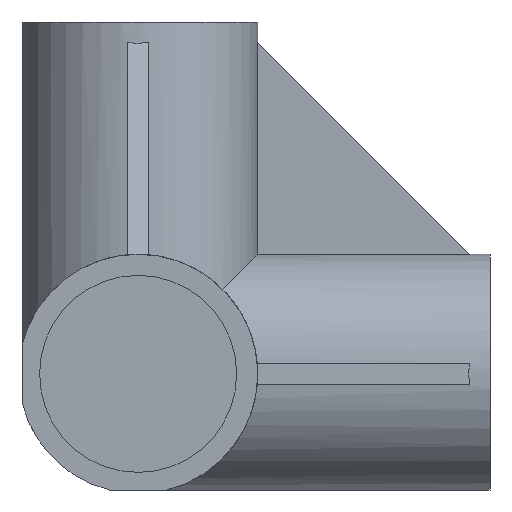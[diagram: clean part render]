
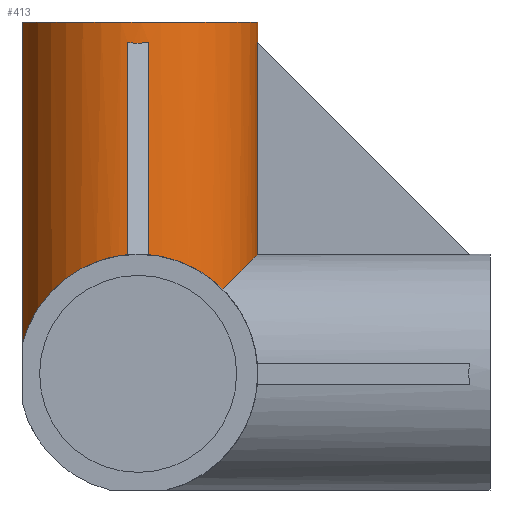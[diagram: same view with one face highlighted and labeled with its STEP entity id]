
A CAD part, front view. The second image highlights one B-rep face of the part: STEP entity #413.
In plain terms, the highlighted cylindrical face has radius 17 mm (diameter 34 mm), a partial arc.
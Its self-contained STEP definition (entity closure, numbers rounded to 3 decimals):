
#2 = CARTESIAN_POINT ( 'NONE',  ( 1.5, -16.934, 47.066 ) ) ;
#4 =( BOUNDED_CURVE ( )  B_SPLINE_CURVE ( 3, ( #629, #196, #25, #583 ),
 .UNSPECIFIED., .F., .T. ) 
 B_SPLINE_CURVE_WITH_KNOTS ( ( 4, 4 ),
 ( 1.814, 3.053 ),
 .UNSPECIFIED. ) 
 CURVE ( )  GEOMETRIC_REPRESENTATION_ITEM ( )  RATIONAL_B_SPLINE_CURVE ( ( 1., 0.876, 0.876, 1. ) ) 
 REPRESENTATION_ITEM ( '' )  );
#5 = VERTEX_POINT ( 'NONE', #495 ) ;
#7 = CARTESIAN_POINT ( 'NONE',  ( 5.516, -16.578, 16.578 ) ) ;
#15 = DIRECTION ( 'NONE',  ( 1., 0., 0. ) ) ;
#18 = EDGE_CURVE ( 'NONE', #5, #541, #569, .T. ) ;
#25 = CARTESIAN_POINT ( 'NONE',  ( 16.271, 8.984, 16.271 ) ) ;
#33 = CARTESIAN_POINT ( 'NONE',  ( 14.872, -9.17, 14.872 ) ) ;
#35 = VERTEX_POINT ( 'NONE', #2 ) ;
#65 = VERTEX_POINT ( 'NONE', #1066 ) ;
#66 = CARTESIAN_POINT ( 'NONE',  ( -16.5, -4.093, 4.093 ) ) ;
#92 = ORIENTED_EDGE ( 'NONE', *, *, #18, .F. ) ;
#95 = CARTESIAN_POINT ( 'NONE',  ( 0.501, -17.022, 46.978 ) ) ;
#104 = AXIS2_PLACEMENT_3D ( 'NONE', #786, #173, #15 ) ;
#116 =( BOUNDED_CURVE ( )  B_SPLINE_CURVE ( 3, ( #825, #831, #33, #1082 ),
 .UNSPECIFIED., .F., .T. ) 
 B_SPLINE_CURVE_WITH_KNOTS ( ( 4, 4 ),
 ( 3.23, 3.927 ),
 .UNSPECIFIED. ) 
 CURVE ( )  GEOMETRIC_REPRESENTATION_ITEM ( )  RATIONAL_B_SPLINE_CURVE ( ( 1., 0.96, 0.96, 1. ) ) 
 REPRESENTATION_ITEM ( '' )  );
#130 = CARTESIAN_POINT ( 'NONE',  ( -1.5, -16.934, 47.066 ) ) ;
#168 = EDGE_CURVE ( 'NONE', #243, #678, #116, .T. ) ;
#173 = DIRECTION ( 'NONE',  ( 0., 0., 1. ) ) ;
#176 = VERTEX_POINT ( 'NONE', #728 ) ;
#177 = CARTESIAN_POINT ( 'NONE',  ( 1.5, -16.934, 50. ) ) ;
#178 = EDGE_CURVE ( 'NONE', #276, #176, #370, .T. ) ;
#179 = DIRECTION ( 'NONE',  ( -1., 0., 0. ) ) ;
#188 = DIRECTION ( 'NONE',  ( 0., 0., -1. ) ) ;
#196 = CARTESIAN_POINT ( 'NONE',  ( 11.385, 14.691, 11.385 ) ) ;
#207 = ORIENTED_EDGE ( 'NONE', *, *, #931, .T. ) ;
#240 = EDGE_CURVE ( 'NONE', #951, #176, #4, .T. ) ;
#243 = VERTEX_POINT ( 'NONE', #808 ) ;
#260 = FACE_OUTER_BOUND ( 'NONE', #1110, .T. ) ;
#276 = VERTEX_POINT ( 'NONE', #493 ) ;
#309 = DIRECTION ( 'NONE',  ( 0., 0., -1. ) ) ;
#332 = ORIENTED_EDGE ( 'NONE', *, *, #1074, .F. ) ;
#334 = EDGE_CURVE ( 'NONE', #638, #65, #349, .T. ) ;
#336 = CARTESIAN_POINT ( 'NONE',  ( 16.934, -1.5, 47.066 ) ) ;
#349 =( BOUNDED_CURVE ( )  B_SPLINE_CURVE ( 3, ( #674, #764, #664, #1021 ),
 .UNSPECIFIED., .F., .T. ) 
 B_SPLINE_CURVE_WITH_KNOTS ( ( 4, 4 ),
 ( 1.814, 3.053 ),
 .UNSPECIFIED. ) 
 CURVE ( )  GEOMETRIC_REPRESENTATION_ITEM ( )  RATIONAL_B_SPLINE_CURVE ( ( 1., 0.876, 0.876, 1. ) ) 
 REPRESENTATION_ITEM ( '' )  );
#351 = CARTESIAN_POINT ( 'NONE',  ( 1.5, -16.934, 47.066 ) ) ;
#355 = VECTOR ( 'NONE', #556, 1000. ) ;
#370 = LINE ( 'NONE', #988, #355 ) ;
#386 = CARTESIAN_POINT ( 'NONE',  ( 4.093, 16.5, 4.093 ) ) ;
#397 = ORIENTED_EDGE ( 'NONE', *, *, #843, .T. ) ;
#413 = ADVANCED_FACE ( 'NONE', ( #260 ), #712, .T. ) ;
#427 = VECTOR ( 'NONE', #930, 1000. ) ;
#430 = LINE ( 'NONE', #177, #442 ) ;
#431 = CARTESIAN_POINT ( 'NONE',  ( -0.501, -17.022, 46.978 ) ) ;
#432 = EDGE_CURVE ( 'NONE', #35, #935, #586, .T. ) ;
#436 = CARTESIAN_POINT ( 'NONE',  ( -1.5, -16.934, 47.066 ) ) ;
#439 = ORIENTED_EDGE ( 'NONE', *, *, #178, .T. ) ;
#442 = VECTOR ( 'NONE', #710, 1000. ) ;
#445 = EDGE_CURVE ( 'NONE', #806, #678, #705, .T. ) ;
#453 = LINE ( 'NONE', #457, #479 ) ;
#457 = CARTESIAN_POINT ( 'NONE',  ( -1.5, -16.934, 50. ) ) ;
#471 = LINE ( 'NONE', #476, #702 ) ;
#473 = CARTESIAN_POINT ( 'NONE',  ( 16.934, -1.5, 47.066 ) ) ;
#476 = CARTESIAN_POINT ( 'NONE',  ( 16.934, -1.5, 50. ) ) ;
#479 = VECTOR ( 'NONE', #980, 1000. ) ;
#484 = CARTESIAN_POINT ( 'NONE',  ( 4.093, 16.5, 50. ) ) ;
#485 = VERTEX_POINT ( 'NONE', #336 ) ;
#493 = CARTESIAN_POINT ( 'NONE',  ( 16.934, 1.5, 47.066 ) ) ;
#495 = CARTESIAN_POINT ( 'NONE',  ( -16.5, -4.093, 50. ) ) ;
#498 = ORIENTED_EDGE ( 'NONE', *, *, #526, .F. ) ;
#514 = AXIS2_PLACEMENT_3D ( 'NONE', #877, #1069, #179 ) ;
#523 = ORIENTED_EDGE ( 'NONE', *, *, #1041, .T. ) ;
#526 = EDGE_CURVE ( 'NONE', #935, #65, #453, .T. ) ;
#532 = CARTESIAN_POINT ( 'NONE',  ( 9.17, -14.872, 14.872 ) ) ;
#541 = VERTEX_POINT ( 'NONE', #807 ) ;
#556 = DIRECTION ( 'NONE',  ( 0., 0., -1. ) ) ;
#569 = CIRCLE ( 'NONE', #104, 17. ) ;
#578 = LINE ( 'NONE', #484, #427 ) ;
#583 = CARTESIAN_POINT ( 'NONE',  ( 16.934, 1.5, 16.934 ) ) ;
#586 =( BOUNDED_CURVE ( )  B_SPLINE_CURVE ( 3, ( #351, #95, #431, #436 ),
 .UNSPECIFIED., .F., .T. ) 
 B_SPLINE_CURVE_WITH_KNOTS ( ( 4, 4 ),
 ( 6.195, 6.372 ),
 .UNSPECIFIED. ) 
 CURVE ( )  GEOMETRIC_REPRESENTATION_ITEM ( )  RATIONAL_B_SPLINE_CURVE ( ( 1., 0.997, 0.997, 1. ) ) 
 REPRESENTATION_ITEM ( '' )  );
#605 = EDGE_CURVE ( 'NONE', #276, #485, #929, .T. ) ;
#612 = VECTOR ( 'NONE', #188, 1000. ) ;
#615 = ORIENTED_EDGE ( 'NONE', *, *, #334, .T. ) ;
#629 = CARTESIAN_POINT ( 'NONE',  ( 4.093, 16.5, 4.093 ) ) ;
#638 = VERTEX_POINT ( 'NONE', #66 ) ;
#664 = CARTESIAN_POINT ( 'NONE',  ( -8.984, -16.271, 16.271 ) ) ;
#674 = CARTESIAN_POINT ( 'NONE',  ( -16.5, -4.093, 4.093 ) ) ;
#678 = VERTEX_POINT ( 'NONE', #842 ) ;
#702 = VECTOR ( 'NONE', #309, 1000. ) ;
#705 =( BOUNDED_CURVE ( )  B_SPLINE_CURVE ( 3, ( #785, #7, #532, #797 ),
 .UNSPECIFIED., .F., .T. ) 
 B_SPLINE_CURVE_WITH_KNOTS ( ( 4, 4 ),
 ( 3.23, 3.927 ),
 .UNSPECIFIED. ) 
 CURVE ( )  GEOMETRIC_REPRESENTATION_ITEM ( )  RATIONAL_B_SPLINE_CURVE ( ( 1., 0.96, 0.96, 1. ) ) 
 REPRESENTATION_ITEM ( '' )  );
#710 = DIRECTION ( 'NONE',  ( 0., 0., -1. ) ) ;
#712 = CYLINDRICAL_SURFACE ( 'NONE', #514, 17. ) ;
#728 = CARTESIAN_POINT ( 'NONE',  ( 16.934, 1.5, 16.934 ) ) ;
#764 = CARTESIAN_POINT ( 'NONE',  ( -14.691, -11.385, 11.385 ) ) ;
#785 = CARTESIAN_POINT ( 'NONE',  ( 1.5, -16.934, 16.934 ) ) ;
#786 = CARTESIAN_POINT ( 'NONE',  ( 0., 0., 50. ) ) ;
#797 = CARTESIAN_POINT ( 'NONE',  ( 12.021, -12.021, 12.021 ) ) ;
#805 = LINE ( 'NONE', #974, #612 ) ;
#806 = VERTEX_POINT ( 'NONE', #1062 ) ;
#807 = CARTESIAN_POINT ( 'NONE',  ( 4.093, 16.5, 50. ) ) ;
#808 = CARTESIAN_POINT ( 'NONE',  ( 16.934, -1.5, 16.934 ) ) ;
#825 = CARTESIAN_POINT ( 'NONE',  ( 16.934, -1.5, 16.934 ) ) ;
#831 = CARTESIAN_POINT ( 'NONE',  ( 16.578, -5.516, 16.578 ) ) ;
#839 = ORIENTED_EDGE ( 'NONE', *, *, #605, .F. ) ;
#842 = CARTESIAN_POINT ( 'NONE',  ( 12.021, -12.021, 12.021 ) ) ;
#843 = EDGE_CURVE ( 'NONE', #35, #806, #430, .T. ) ;
#877 = CARTESIAN_POINT ( 'NONE',  ( 0., 0., 50. ) ) ;
#912 = ORIENTED_EDGE ( 'NONE', *, *, #240, .F. ) ;
#925 = CARTESIAN_POINT ( 'NONE',  ( 17.022, -0.501, 46.978 ) ) ;
#929 =( BOUNDED_CURVE ( )  B_SPLINE_CURVE ( 3, ( #1018, #1107, #925, #473 ),
 .UNSPECIFIED., .F., .T. ) 
 B_SPLINE_CURVE_WITH_KNOTS ( ( 4, 4 ),
 ( 6.195, 6.372 ),
 .UNSPECIFIED. ) 
 CURVE ( )  GEOMETRIC_REPRESENTATION_ITEM ( )  RATIONAL_B_SPLINE_CURVE ( ( 1., 0.997, 0.997, 1. ) ) 
 REPRESENTATION_ITEM ( '' )  );
#930 = DIRECTION ( 'NONE',  ( 0., 0., 1. ) ) ;
#931 = EDGE_CURVE ( 'NONE', #5, #638, #805, .T. ) ;
#935 = VERTEX_POINT ( 'NONE', #130 ) ;
#951 = VERTEX_POINT ( 'NONE', #386 ) ;
#974 = CARTESIAN_POINT ( 'NONE',  ( -16.5, -4.093, 50. ) ) ;
#977 = ORIENTED_EDGE ( 'NONE', *, *, #445, .T. ) ;
#980 = DIRECTION ( 'NONE',  ( 0., 0., -1. ) ) ;
#988 = CARTESIAN_POINT ( 'NONE',  ( 16.934, 1.5, 50. ) ) ;
#1011 = ORIENTED_EDGE ( 'NONE', *, *, #432, .F. ) ;
#1018 = CARTESIAN_POINT ( 'NONE',  ( 16.934, 1.5, 47.066 ) ) ;
#1021 = CARTESIAN_POINT ( 'NONE',  ( -1.5, -16.934, 16.934 ) ) ;
#1041 = EDGE_CURVE ( 'NONE', #951, #541, #578, .T. ) ;
#1046 = ORIENTED_EDGE ( 'NONE', *, *, #168, .F. ) ;
#1062 = CARTESIAN_POINT ( 'NONE',  ( 1.5, -16.934, 16.934 ) ) ;
#1066 = CARTESIAN_POINT ( 'NONE',  ( -1.5, -16.934, 16.934 ) ) ;
#1069 = DIRECTION ( 'NONE',  ( 0., 0., -1. ) ) ;
#1074 = EDGE_CURVE ( 'NONE', #485, #243, #471, .T. ) ;
#1082 = CARTESIAN_POINT ( 'NONE',  ( 12.021, -12.021, 12.021 ) ) ;
#1107 = CARTESIAN_POINT ( 'NONE',  ( 17.022, 0.501, 46.978 ) ) ;
#1110 = EDGE_LOOP ( 'NONE', ( #498, #1011, #397, #977, #1046, #332, #839, #439, #912, #523, #92, #207, #615 ) ) ;
